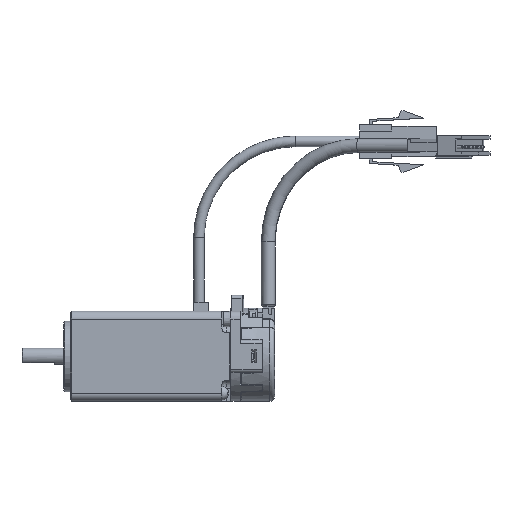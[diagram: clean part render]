
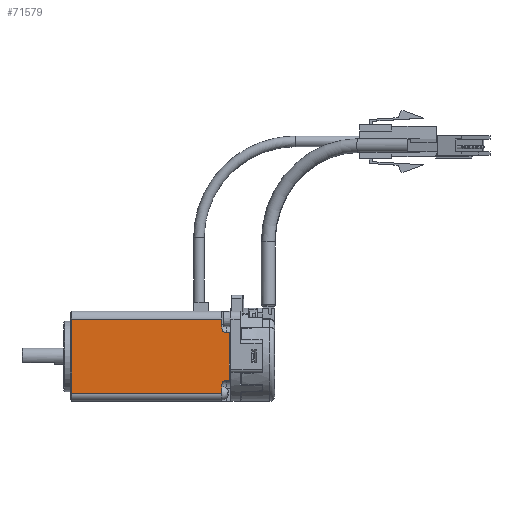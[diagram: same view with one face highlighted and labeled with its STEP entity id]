
A CAD part, top view. The second image highlights one B-rep face of the part: STEP entity #71579.
In plain terms, the highlighted planar face has unit normal (0, 0, 1).
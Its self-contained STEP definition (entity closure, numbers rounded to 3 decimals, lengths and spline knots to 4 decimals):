
#578=PLANE('',#75569);
#4152=LINE('',#100906,#13577);
#4153=LINE('',#100913,#13578);
#4154=LINE('',#100916,#13579);
#4155=LINE('',#100918,#13580);
#4156=LINE('',#100922,#13581);
#4157=LINE('',#100924,#13582);
#4158=LINE('',#100926,#13583);
#4159=LINE('',#100929,#13584);
#13577=VECTOR('',#81316,1.8386);
#13578=VECTOR('',#81325,1.8386);
#13579=VECTOR('',#81330,0.9055);
#13580=VECTOR('',#81331,0.1024);
#13581=VECTOR('',#81334,0.0315);
#13582=VECTOR('',#81335,0.5787);
#13583=VECTOR('',#81336,0.0315);
#13584=VECTOR('',#81339,0.1063);
#22994=FACE_OUTER_BOUND('',#26836,.T.);
#26836=EDGE_LOOP('',(#50803,#50804,#50805,#50806,#50807,#50808,#50809,#50810,
#50811,#50812));
#30813=CIRCLE('',#75570,0.0591);
#30814=CIRCLE('',#75571,0.0591);
#32165=VERTEX_POINT('',#100904);
#32166=VERTEX_POINT('',#100905);
#32167=VERTEX_POINT('',#100910);
#32168=VERTEX_POINT('',#100912);
#32169=VERTEX_POINT('',#100917);
#32170=VERTEX_POINT('',#100919);
#32171=VERTEX_POINT('',#100921);
#32172=VERTEX_POINT('',#100923);
#32173=VERTEX_POINT('',#100925);
#32174=VERTEX_POINT('',#100927);
#39483=EDGE_CURVE('',#32165,#32166,#4152,.T.);
#39487=EDGE_CURVE('',#32168,#32167,#4153,.T.);
#39489=EDGE_CURVE('',#32167,#32165,#4154,.T.);
#39490=EDGE_CURVE('',#32166,#32169,#4155,.T.);
#39491=EDGE_CURVE('',#32169,#32170,#30813,.T.);
#39492=EDGE_CURVE('',#32171,#32170,#4156,.T.);
#39493=EDGE_CURVE('',#32171,#32172,#4157,.T.);
#39494=EDGE_CURVE('',#32173,#32172,#4158,.T.);
#39495=EDGE_CURVE('',#32173,#32174,#30814,.T.);
#39496=EDGE_CURVE('',#32174,#32168,#4159,.T.);
#50803=ORIENTED_EDGE('',*,*,#39487,.T.);
#50804=ORIENTED_EDGE('',*,*,#39489,.T.);
#50805=ORIENTED_EDGE('',*,*,#39483,.T.);
#50806=ORIENTED_EDGE('',*,*,#39490,.T.);
#50807=ORIENTED_EDGE('',*,*,#39491,.T.);
#50808=ORIENTED_EDGE('',*,*,#39492,.F.);
#50809=ORIENTED_EDGE('',*,*,#39493,.T.);
#50810=ORIENTED_EDGE('',*,*,#39494,.F.);
#50811=ORIENTED_EDGE('',*,*,#39495,.T.);
#50812=ORIENTED_EDGE('',*,*,#39496,.T.);
#71579=ADVANCED_FACE('',(#22994),#578,.T.);
#75569=AXIS2_PLACEMENT_3D('',#100915,#81328,#81329);
#75570=AXIS2_PLACEMENT_3D('',#100920,#81332,#81333);
#75571=AXIS2_PLACEMENT_3D('',#100928,#81337,#81338);
#81316=DIRECTION('',(1.,0.,0.));
#81325=DIRECTION('',(-1.,0.,0.));
#81328=DIRECTION('center_axis',(0.,0.,
1.));
#81329=DIRECTION('ref_axis',(-1.,0.,0.));
#81330=DIRECTION('',(0.,-1.,0.));
#81331=DIRECTION('',(0.,1.,0.));
#81332=DIRECTION('center_axis',(0.,0.,
-1.));
#81333=DIRECTION('ref_axis',(-1.,0.,0.));
#81334=DIRECTION('',(-1.,0.,0.));
#81335=DIRECTION('',(0.,1.,0.));
#81336=DIRECTION('',(1.,0.,0.));
#81337=DIRECTION('center_axis',(0.,0.,
-1.));
#81338=DIRECTION('ref_axis',(1.,0.,0.));
#81339=DIRECTION('',(0.,1.,0.));
#100904=CARTESIAN_POINT('',(-3.1247,0.0984,1.1024));
#100905=CARTESIAN_POINT('',(-1.2861,0.0984,1.1024));
#100906=CARTESIAN_POINT('',(-1.1955,0.0984,1.1024));
#100910=CARTESIAN_POINT('',(-3.1247,1.0039,1.1024));
#100912=CARTESIAN_POINT('',(-1.2861,1.0039,1.1024));
#100913=CARTESIAN_POINT('',(-1.1955,1.0039,1.1024));
#100915=CARTESIAN_POINT('Origin',(-1.1955,0.0984,1.1024));
#100916=CARTESIAN_POINT('',(-3.1247,0.0984,1.1024));
#100917=CARTESIAN_POINT('',(-1.2861,0.2008,1.1024));
#100918=CARTESIAN_POINT('',(-1.2861,0.0984,1.1024));
#100919=CARTESIAN_POINT('',(-1.227,0.2598,1.1024));
#100920=CARTESIAN_POINT('Origin',(-1.227,0.2008,1.1024));
#100921=CARTESIAN_POINT('',(-1.1955,0.2598,1.1024));
#100922=CARTESIAN_POINT('',(-1.1759,0.2598,1.1024));
#100923=CARTESIAN_POINT('',(-1.1955,0.8386,1.1024));
#100924=CARTESIAN_POINT('',(-1.1955,0.0984,1.1024));
#100925=CARTESIAN_POINT('',(-1.227,0.8386,1.1024));
#100926=CARTESIAN_POINT('',(-1.1759,0.8386,1.1024));
#100927=CARTESIAN_POINT('',(-1.2861,0.8976,1.1024));
#100928=CARTESIAN_POINT('Origin',(-1.227,0.8976,1.1024));
#100929=CARTESIAN_POINT('',(-1.2861,0.0984,1.1024));
